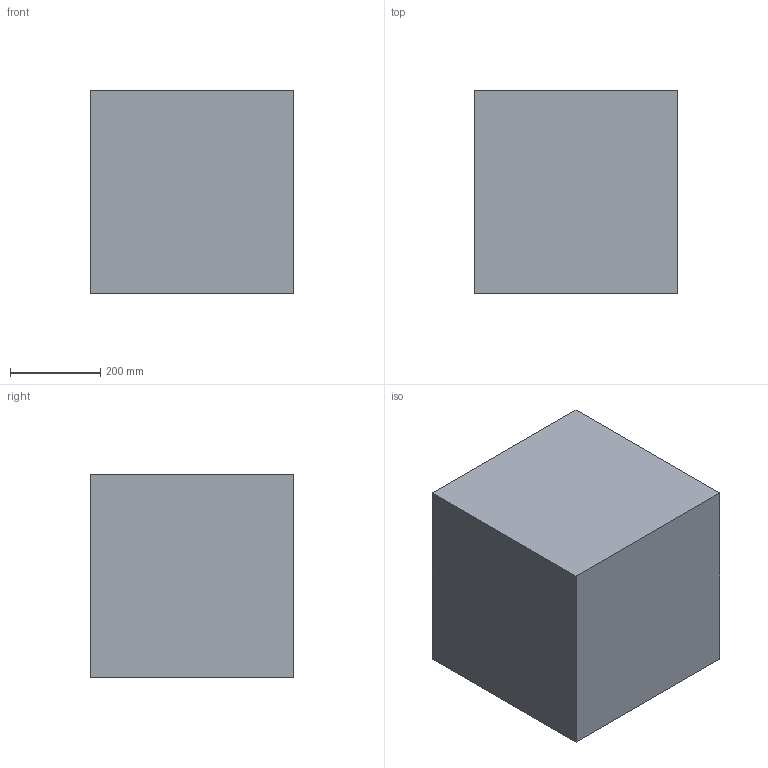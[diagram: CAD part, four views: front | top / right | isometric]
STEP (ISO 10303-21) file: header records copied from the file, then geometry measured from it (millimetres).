
FILE_DESCRIPTION (( 'STEP AP203' ), '1' );
FILE_NAME ('Extrabox Cubby Type A.STEP', '2019-01-15T13:44:22', ( '' ), ( '' ), 'SwSTEP 2.0', 'SolidWorks 2019', '' );
FILE_SCHEMA (( 'CONFIG_CONTROL_DESIGN' ));
Length unit declared in the file: millimetre
Products named in the file (1): Extrabox Cubby Type A
Bounding box: 450 x 450 x 450 mm (x, y, z)
Volume: 18039936 mm3; surface area: 1983656 mm2
Topology: 1 solids, 1 shells, 32 faces, 84 edges, 56 vertices
Faces by surface type: plane 32
Entity records: 1045 total; most frequent: CARTESIAN_POINT 173, ORIENTED_EDGE 168, DIRECTION 150, LINE 84, EDGE_CURVE 84, VECTOR 84, VERTEX_POINT 56, EDGE_LOOP 34
